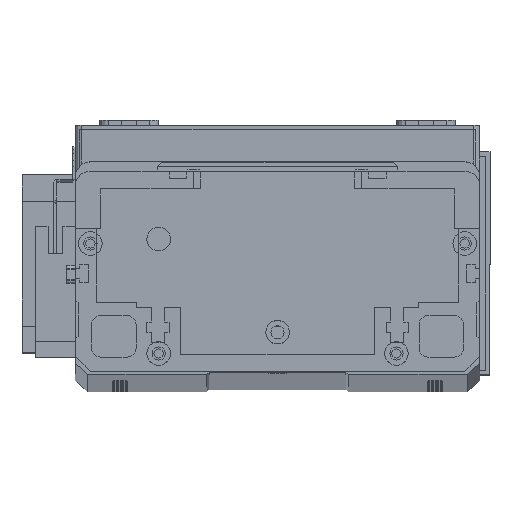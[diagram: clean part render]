
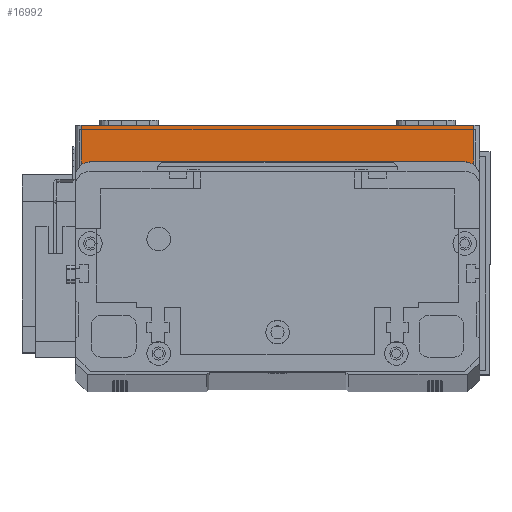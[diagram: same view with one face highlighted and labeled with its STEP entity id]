
A CAD part, top view. The second image highlights one B-rep face of the part: STEP entity #16992.
In plain terms, the highlighted planar face has unit normal (0, 0, 1) as drawn and (0, -1, 0) by its records, which use the part's own axes.
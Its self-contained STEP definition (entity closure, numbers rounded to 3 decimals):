
#995 = ORIENTED_EDGE ( 'NONE', *, *, #3316, .T. ) ;
#1579 = VERTEX_POINT ( 'NONE', #8412 ) ;
#1824 = DIRECTION ( 'NONE',  ( 0., 1., 0. ) ) ;
#2063 = ORIENTED_EDGE ( 'NONE', *, *, #9134, .F. ) ;
#3316 = EDGE_CURVE ( 'NONE', #8165, #15163, #31062, .T. ) ;
#3925 = AXIS2_PLACEMENT_3D ( 'NONE', #9118, #1824, #18953 ) ;
#5950 = ORIENTED_EDGE ( 'NONE', *, *, #25785, .T. ) ;
#6546 = VECTOR ( 'NONE', #12287, 1000. ) ;
#6641 = CARTESIAN_POINT ( 'NONE',  ( 0., 0., 0. ) ) ;
#8036 = CARTESIAN_POINT ( 'NONE',  ( 134., 0., 19.5 ) ) ;
#8165 = VERTEX_POINT ( 'NONE', #20640 ) ;
#8412 = CARTESIAN_POINT ( 'NONE',  ( 2., 0., 19.5 ) ) ;
#8657 = DIRECTION ( 'NONE',  ( 0., 0., -1. ) ) ;
#9118 = CARTESIAN_POINT ( 'NONE',  ( 0., 0., 19.5 ) ) ;
#9134 = EDGE_CURVE ( 'NONE', #1579, #11210, #24439, .T. ) ;
#11210 = VERTEX_POINT ( 'NONE', #22591 ) ;
#11218 = EDGE_CURVE ( 'NONE', #15163, #11210, #29138, .T. ) ;
#12287 = DIRECTION ( 'NONE',  ( 1., 0., 0. ) ) ;
#14018 = EDGE_LOOP ( 'NONE', ( #2063, #5950, #995, #30783 ) ) ;
#14038 = PLANE ( 'NONE',  #3925 ) ;
#15163 = VERTEX_POINT ( 'NONE', #30721 ) ;
#16992 = ADVANCED_FACE ( 'NONE', ( #18744 ), #14038, .F. ) ;
#17616 = VECTOR ( 'NONE', #30656, 1000. ) ;
#18412 = CARTESIAN_POINT ( 'NONE',  ( 2., 0., 19.5 ) ) ;
#18744 = FACE_OUTER_BOUND ( 'NONE', #14018, .T. ) ;
#18953 = DIRECTION ( 'NONE',  ( 0., 0., 1. ) ) ;
#20640 = CARTESIAN_POINT ( 'NONE',  ( 2., 0., 0. ) ) ;
#22591 = CARTESIAN_POINT ( 'NONE',  ( 134., 0., 19.5 ) ) ;
#22805 = VECTOR ( 'NONE', #27415, 1000. ) ;
#23452 = VECTOR ( 'NONE', #8657, 1000. ) ;
#24439 = LINE ( 'NONE', #26772, #6546 ) ;
#25785 = EDGE_CURVE ( 'NONE', #1579, #8165, #29769, .T. ) ;
#26772 = CARTESIAN_POINT ( 'NONE',  ( 0., 0., 19.5 ) ) ;
#27415 = DIRECTION ( 'NONE',  ( 0., 0., 1. ) ) ;
#29138 = LINE ( 'NONE', #8036, #22805 ) ;
#29769 = LINE ( 'NONE', #18412, #23452 ) ;
#30656 = DIRECTION ( 'NONE',  ( 1., 0., 0. ) ) ;
#30721 = CARTESIAN_POINT ( 'NONE',  ( 134., 0., 0. ) ) ;
#30783 = ORIENTED_EDGE ( 'NONE', *, *, #11218, .T. ) ;
#31062 = LINE ( 'NONE', #6641, #17616 ) ;
